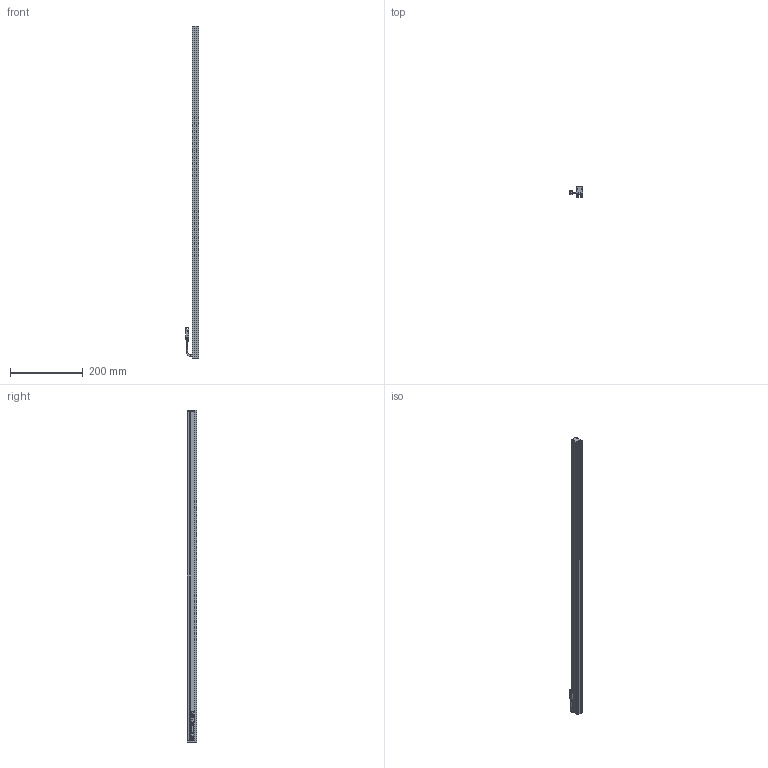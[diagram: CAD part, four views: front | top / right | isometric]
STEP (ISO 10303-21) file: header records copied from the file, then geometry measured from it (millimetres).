
FILE_DESCRIPTION (( 'STEP AP203' ), '1' );
FILE_NAME ('CK-BL91218.STEP', '2025-12-26T09:54:45', ( '' ), ( '' ), 'SwSTEP 2.0', 'SolidWorks 2022', '' );
FILE_SCHEMA (( 'CONFIG_CONTROL_DESIGN' ));
Length unit declared in the file: millimetre
Products named in the file (6): CK-BL91218-002A; CK-BL91218; CK-BL91218-001A; 十字沉头螺丝 M2x10; 光源线-01; CK-BL91218-003A
Assembly tree (9 placements, depth 2):
  CK-BL91218
    CK-BL91218-001A
    CK-BL91218-002A  x2
    CK-BL91218-003A
    光源线-01
    十字沉头螺丝 M2x10  x4
Bounding box: 37.34 x 27 x 912 mm (x, y, z)
Volume: 202006.6 mm3; surface area: 199478.7 mm2
Topology: 11 solids, 11 shells, 474 faces, 1231 edges, 780 vertices
Faces by surface type: plane 271, cylinder 149, cone 34, bspline 20
Entity records: 12442 total; most frequent: CARTESIAN_POINT 2514, ORIENTED_EDGE 1936, DIRECTION 1916, EDGE_CURVE 968, VECTOR 668, LINE 668, VERTEX_POINT 626, AXIS2_PLACEMENT_3D 624
